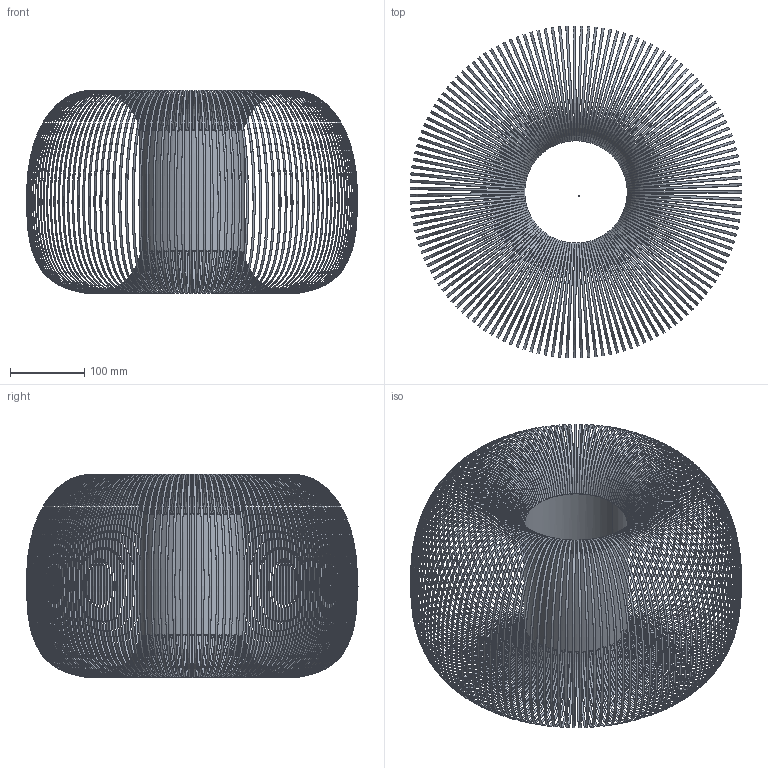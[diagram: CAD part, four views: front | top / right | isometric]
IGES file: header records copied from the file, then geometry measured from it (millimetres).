
Start section: SolidWorks IGES file using analytic representation for surfaces
Global section: file name: C:\Users\o.domenech\Desktop\3d\MIRTA-5PANT305545-3D.IGS; native system: SolidWorks 2024; preprocessor: SolidWorks 2024; author: o.domenech; date: 250121.074320; units: millimetre
Bounding box: 446.7 x 446.73 x 273.35 mm (x, y, z)
Volume: 54838.4 mm3; surface area: 546725.8 mm2
Topology: 143 solids, 143 shells, 575 faces, 1752 edges, 2332 vertices
Faces by surface type: bspline 575
